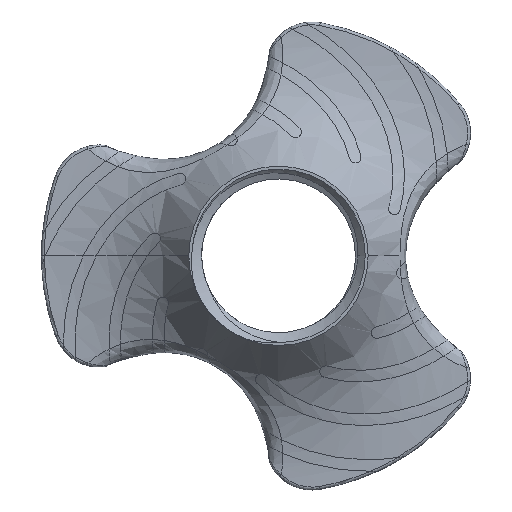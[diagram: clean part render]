
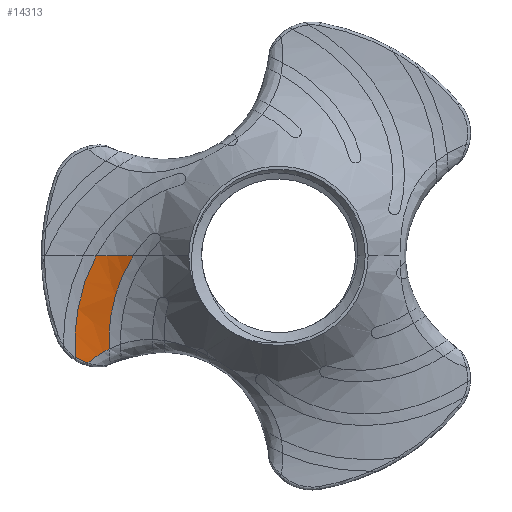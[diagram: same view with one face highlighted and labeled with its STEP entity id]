
A CAD part, top view. The second image highlights one B-rep face of the part: STEP entity #14313.
In plain terms, the highlighted free-form (B-spline) face has degree [3, 3] with [4, 4] control points.
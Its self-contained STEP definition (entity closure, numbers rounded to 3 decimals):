
#628 = B_SPLINE_CURVE_WITH_KNOTS ( 'NONE', 3,
 ( #16448, #13586, #11891, #3912, #20226, #12173 ),
 .UNSPECIFIED., .F., .F.,
 ( 4, 2, 4 ),
 ( 0.003, 0.006, 0.008 ),
 .UNSPECIFIED. ) ;
#790 = CARTESIAN_POINT ( 'NONE',  ( -25.303, 2.751, 14.308 ) ) ;
#1144 = CARTESIAN_POINT ( 'NONE',  ( -33.836, 1.701, 5.876 ) ) ;
#1145 = EDGE_CURVE ( 'NONE', #14391, #20617, #9709, .T. ) ;
#1281 = CARTESIAN_POINT ( 'NONE',  ( -39.373, 1.534, 0.01 ) ) ;
#1610 = CARTESIAN_POINT ( 'NONE',  ( -34.827, 1.733, 9.981 ) ) ;
#1856 = VERTEX_POINT ( 'NONE', #17410 ) ;
#2128 = CARTESIAN_POINT ( 'NONE',  ( -28.761, 2.877, 9.032 ) ) ;
#2493 = CARTESIAN_POINT ( 'NONE',  ( -21.803, 4.981, 12.331 ) ) ;
#2562 = CARTESIAN_POINT ( 'NONE',  ( -23.938, 4.981, 8.551 ) ) ;
#2846 = CARTESIAN_POINT ( 'NONE',  ( -31.528, 2.51, 0.01 ) ) ;
#2859 = CARTESIAN_POINT ( 'NONE',  ( -33.836, 1.701, 0.01 ) ) ;
#2988 = CARTESIAN_POINT ( 'NONE',  ( -33.341, 1.59, 18.384 ) ) ;
#3064 = CARTESIAN_POINT ( 'NONE',  ( -33.726, 1.575, 18.246 ) ) ;
#3662 = CARTESIAN_POINT ( 'NONE',  ( -25.487, 4.736, 0.58 ) ) ;
#3870 = CARTESIAN_POINT ( 'NONE',  ( -29.006, 2.687, 10.435 ) ) ;
#3912 = CARTESIAN_POINT ( 'NONE',  ( -30.583, 1.884, 16.782 ) ) ;
#4137 = EDGE_LOOP ( 'NONE', ( #19238, #10937, #17011, #7652, #7935 ) ) ;
#4376 = CARTESIAN_POINT ( 'NONE',  ( -37.637, 1.534, 13.436 ) ) ;
#4624 = CARTESIAN_POINT ( 'NONE',  ( -27.073, 3.864, 0.01 ) ) ;
#4718 = EDGE_CURVE ( 'NONE', #18641, #20963, #10704, .T. ) ;
#4857 = CARTESIAN_POINT ( 'NONE',  ( -35.261, 1.556, 15.98 ) ) ;
#5317 = CARTESIAN_POINT ( 'NONE',  ( -26.499, 4.189, 2.398 ) ) ;
#5528 = CARTESIAN_POINT ( 'NONE',  ( -29.292, 2.118, 16.097 ) ) ;
#6207 = CARTESIAN_POINT ( 'NONE',  ( -35.255, 1.586, 14.479 ) ) ;
#6285 = CARTESIAN_POINT ( 'NONE',  ( -32.942, 1.609, 18.49 ) ) ;
#6494 = CARTESIAN_POINT ( 'NONE',  ( -35.102, 1.65, 12.229 ) ) ;
#6769 = EDGE_CURVE ( 'NONE', #18641, #1856, #11399, .T. ) ;
#6883 = CARTESIAN_POINT ( 'NONE',  ( -25.839, 4.545, 1.172 ) ) ;
#6948 = CARTESIAN_POINT ( 'NONE',  ( -29.102, 2.601, 11.139 ) ) ;
#7580 = CARTESIAN_POINT ( 'NONE',  ( -25.042, 4.981, 0.01 ) ) ;
#7652 = ORIENTED_EDGE ( 'NONE', *, *, #1145, .T. ) ;
#7853 = CARTESIAN_POINT ( 'NONE',  ( -31.883, 2.425, 0.674 ) ) ;
#7868 = CARTESIAN_POINT ( 'NONE',  ( -35.175, 1.537, 17.482 ) ) ;
#7935 = ORIENTED_EDGE ( 'NONE', *, *, #15354, .T. ) ;
#8563 = CARTESIAN_POINT ( 'NONE',  ( -27.638, 3.568, 4.953 ) ) ;
#9283 = CARTESIAN_POINT ( 'NONE',  ( -29.062, 2.751, 0.01 ) ) ;
#9428 = CARTESIAN_POINT ( 'NONE',  ( -29.46, 1.701, 16.656 ) ) ;
#9522 = CARTESIAN_POINT ( 'NONE',  ( -31.528, 2.51, 0.01 ) ) ;
#9551 = CARTESIAN_POINT ( 'NONE',  ( -34.249, 1.879, 7.008 ) ) ;
#9709 = B_SPLINE_CURVE_WITH_KNOTS ( 'NONE', 3,
 ( #12744, #14320, #17678, #3064, #2988, #6285 ),
 .UNSPECIFIED., .F., .F.,
 ( 4, 2, 4 ),
 ( 0.005, 0.006, 0.007 ),
 .UNSPECIFIED. ) ;
#9726 = CARTESIAN_POINT ( 'NONE',  ( -25.114, 4.941, 0.01 ) ) ;
#10704 = B_SPLINE_CURVE_WITH_KNOTS ( 'NONE', 3,
 ( #18351, #3662, #6883, #5317, #16692, #8563, #11917, #11990, #2128, #3870, #6948, #19838, #13547, #5528 ),
 .UNSPECIFIED., .F., .F.,
 ( 4, 2, 2, 2, 2, 2, 4 ),
 ( 0.005, 0.007, 0.009, 0.014, 0.016, 0.018, 0.022 ),
 .UNSPECIFIED. ) ;
#10778 = CARTESIAN_POINT ( 'NONE',  ( -25.042, 4.981, 4.352 ) ) ;
#10937 = ORIENTED_EDGE ( 'NONE', *, *, #6769, .T. ) ;
#11088 = CARTESIAN_POINT ( 'NONE',  ( -29.211, 3.065, 0.01 ) ) ;
#11114 = EDGE_CURVE ( 'NONE', #1856, #14391, #19854, .T. ) ;
#11399 = B_SPLINE_CURVE_WITH_KNOTS ( 'NONE', 3,
 ( #9726, #4624, #11088, #9522 ),
 .UNSPECIFIED., .F., .F.,
 ( 4, 4 ),
 ( 0.542, 0.746 ),
 .UNSPECIFIED. ) ;
#11891 = CARTESIAN_POINT ( 'NONE',  ( -31.803, 1.717, 17.583 ) ) ;
#11917 = CARTESIAN_POINT ( 'NONE',  ( -28.088, 3.313, 6.281 ) ) ;
#11921 =( BOUNDED_SURFACE ( )  B_SPLINE_SURFACE ( 3, 3, ( 
 ( #2493, #2562, #10778, #7580 ),
 ( #790, #15831, #15965, #9283 ),
 ( #9428, #12760, #1144, #2859 ),
 ( #14124, #4376, #20696, #1281 ) ),
 .UNSPECIFIED., .F., .F., .F. ) 
 B_SPLINE_SURFACE_WITH_KNOTS ( ( 4, 4 ),
 ( 4, 4 ),
 ( 0.539, 0.96 ),
 ( 0., 1. ),
 .UNSPECIFIED. ) 
 GEOMETRIC_REPRESENTATION_ITEM ( )  RATIONAL_B_SPLINE_SURFACE ( (
 ( 1., 0.978, 0.978, 1.),
 ( 1., 0.978, 0.978, 1.),
 ( 1., 0.978, 0.978, 1.),
 ( 1., 0.978, 0.978, 1.) ) ) 
 REPRESENTATION_ITEM ( '' )  SURFACE ( )  );
#11990 = CARTESIAN_POINT ( 'NONE',  ( -28.612, 2.98, 8.335 ) ) ;
#12173 = CARTESIAN_POINT ( 'NONE',  ( -29.292, 2.118, 16.097 ) ) ;
#12744 = CARTESIAN_POINT ( 'NONE',  ( -35.175, 1.537, 17.482 ) ) ;
#12760 = CARTESIAN_POINT ( 'NONE',  ( -32.345, 1.701, 11.549 ) ) ;
#12885 = CARTESIAN_POINT ( 'NONE',  ( -32.821, 2.207, 2.737 ) ) ;
#12953 = CARTESIAN_POINT ( 'NONE',  ( -35.175, 1.537, 17.482 ) ) ;
#13123 = CARTESIAN_POINT ( 'NONE',  ( -25.114, 4.941, 0.01 ) ) ;
#13547 = CARTESIAN_POINT ( 'NONE',  ( -29.351, 2.23, 14.673 ) ) ;
#13586 = CARTESIAN_POINT ( 'NONE',  ( -32.385, 1.654, 18.019 ) ) ;
#14124 = CARTESIAN_POINT ( 'NONE',  ( -34.28, 1.534, 19.379 ) ) ;
#14313 = ADVANCED_FACE ( 'NONE', ( #19492 ), #11921, .F. ) ;
#14320 = CARTESIAN_POINT ( 'NONE',  ( -34.833, 1.544, 17.71 ) ) ;
#14391 = VERTEX_POINT ( 'NONE', #7868 ) ;
#14601 = CARTESIAN_POINT ( 'NONE',  ( -33.849, 1.971, 5.559 ) ) ;
#15354 = EDGE_CURVE ( 'NONE', #20617, #20963, #628, .T. ) ;
#15831 = CARTESIAN_POINT ( 'NONE',  ( -27.781, 2.751, 9.921 ) ) ;
#15965 = CARTESIAN_POINT ( 'NONE',  ( -29.062, 2.751, 5.048 ) ) ;
#16223 = CARTESIAN_POINT ( 'NONE',  ( -35.027, 1.675, 11.48 ) ) ;
#16448 = CARTESIAN_POINT ( 'NONE',  ( -32.942, 1.609, 18.49 ) ) ;
#16692 = CARTESIAN_POINT ( 'NONE',  ( -26.804, 4.024, 3.03 ) ) ;
#17011 = ORIENTED_EDGE ( 'NONE', *, *, #11114, .T. ) ;
#17410 = CARTESIAN_POINT ( 'NONE',  ( -31.528, 2.51, 0.01 ) ) ;
#17678 = CARTESIAN_POINT ( 'NONE',  ( -34.471, 1.552, 17.91 ) ) ;
#17687 = CARTESIAN_POINT ( 'NONE',  ( -32.942, 1.609, 18.49 ) ) ;
#18351 = CARTESIAN_POINT ( 'NONE',  ( -25.114, 4.941, 0.01 ) ) ;
#18641 = VERTEX_POINT ( 'NONE', #13123 ) ;
#18805 = CARTESIAN_POINT ( 'NONE',  ( -29.292, 2.118, 16.097 ) ) ;
#19238 = ORIENTED_EDGE ( 'NONE', *, *, #4718, .F. ) ;
#19321 = CARTESIAN_POINT ( 'NONE',  ( -34.701, 1.767, 9.23 ) ) ;
#19492 = FACE_OUTER_BOUND ( 'NONE', #4137, .T. ) ;
#19838 = CARTESIAN_POINT ( 'NONE',  ( -29.313, 2.362, 13.255 ) ) ;
#19854 = B_SPLINE_CURVE_WITH_KNOTS ( 'NONE', 3,
 ( #2846, #7853, #20897, #12885, #21169, #14601, #9551, #19321, #1610, #16223, #6494, #6207, #4857, #12953 ),
 .UNSPECIFIED., .F., .F.,
 ( 4, 2, 2, 2, 2, 2, 4 ),
 ( 0.021, 0.023, 0.025, 0.03, 0.032, 0.034, 0.039 ),
 .UNSPECIFIED. ) ;
#20226 = CARTESIAN_POINT ( 'NONE',  ( -29.942, 1.991, 16.415 ) ) ;
#20617 = VERTEX_POINT ( 'NONE', #17687 ) ;
#20696 = CARTESIAN_POINT ( 'NONE',  ( -39.373, 1.534, 6.835 ) ) ;
#20897 = CARTESIAN_POINT ( 'NONE',  ( -32.214, 2.348, 1.357 ) ) ;
#20963 = VERTEX_POINT ( 'NONE', #18805 ) ;
#21169 = CARTESIAN_POINT ( 'NONE',  ( -33.097, 2.144, 3.436 ) ) ;
